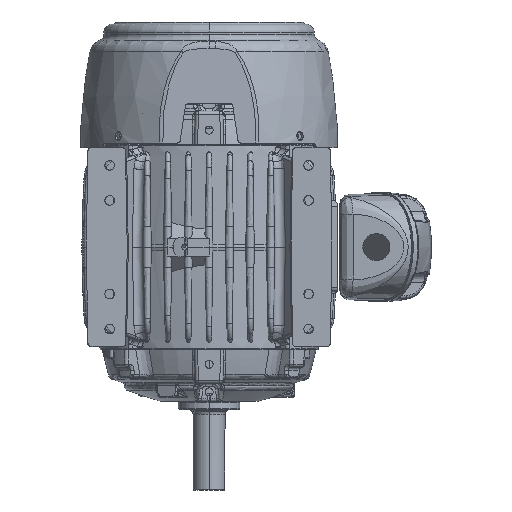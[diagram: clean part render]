
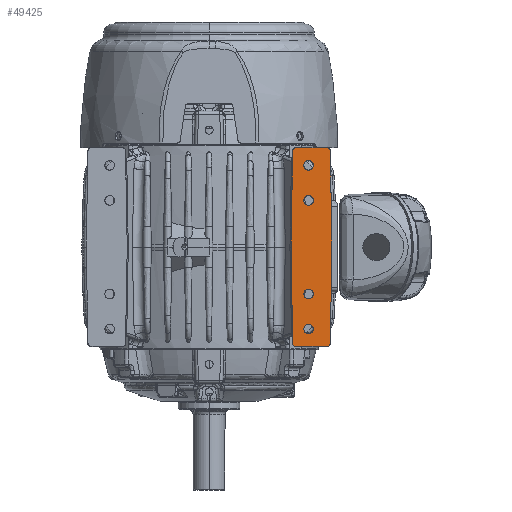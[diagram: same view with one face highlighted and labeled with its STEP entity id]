
A CAD part, front view. The second image highlights one B-rep face of the part: STEP entity #49425.
In plain terms, the highlighted planar face has unit normal (0, -1, 0).
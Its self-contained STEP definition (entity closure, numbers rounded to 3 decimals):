
#13708=CARTESIAN_POINT('',(-5.048,-5.233,4.12));
#13709=DIRECTION('',(0.,-1.,0.));
#13710=DIRECTION('',(0.,0.,1.));
#13711=AXIS2_PLACEMENT_3D('',#13708,#13709,#13710);
#13723=DIRECTION('',(0.017,0.,-1.));
#13724=VECTOR('',#13723,2.39);
#13725=CARTESIAN_POINT('',(-3.542,-5.233,
2.389));
#13726=LINE('',#13725,#13724);
#13727=DIRECTION('',(-0.017,0.,
-1.));
#13728=VECTOR('',#13727,2.39);
#13729=CARTESIAN_POINT('',(-3.5,-5.233,0.));
#13730=LINE('',#13729,#13728);
#13731=CARTESIAN_POINT('',(-5.174,-5.233,-4.123));
#13732=CARTESIAN_POINT('',(-5.187,-5.233,-3.545));
#13733=CARTESIAN_POINT('',(-5.198,-5.233,-2.967));
#13734=CARTESIAN_POINT('',(-5.208,-5.233,-2.389));
#13736=DIRECTION('',(-0.017,0.,1.));
#13737=VECTOR('',#13736,2.39);
#13738=CARTESIAN_POINT('',(-5.208,-5.233,-2.389));
#13739=LINE('',#13738,#13737);
#13740=DIRECTION('',(0.017,0.,1.));
#13741=VECTOR('',#13740,2.39);
#13742=CARTESIAN_POINT('',(-5.25,-5.233,0.));
#13743=LINE('',#13742,#13741);
#13744=CARTESIAN_POINT('',(-3.576,-5.233,
4.123));
#13745=CARTESIAN_POINT('',(-3.571,-5.233,
3.93));
#13746=CARTESIAN_POINT('',(-3.563,-5.232,
3.545));
#13747=CARTESIAN_POINT('',(-3.552,-5.233,
2.967));
#13748=CARTESIAN_POINT('',(-3.545,-5.233,
2.582));
#13749=CARTESIAN_POINT('',(-3.542,-5.233,
2.389));
#13751=CARTESIAN_POINT('',(-4.25,-5.233,3.505));
#13752=DIRECTION('',(0.,-1.,0.));
#13753=DIRECTION('',(-1.,0.,0.));
#13754=AXIS2_PLACEMENT_3D('',#13751,#13752,#13753);
#13756=CARTESIAN_POINT('',(-4.25,-5.233,3.505));
#13757=DIRECTION('',(0.,-1.,0.));
#13758=DIRECTION('',(1.,0.,0.));
#13759=AXIS2_PLACEMENT_3D('',#13756,#13757,#13758);
#13761=CARTESIAN_POINT('',(-4.25,-5.233,-3.495));
#13762=DIRECTION('',(0.,-1.,0.));
#13763=DIRECTION('',(-1.,0.,0.));
#13764=AXIS2_PLACEMENT_3D('',#13761,#13762,#13763);
#13766=CARTESIAN_POINT('',(-4.25,-5.233,-3.495));
#13767=DIRECTION('',(0.,-1.,0.));
#13768=DIRECTION('',(1.,0.,0.));
#13769=AXIS2_PLACEMENT_3D('',#13766,#13767,#13768);
#13771=CARTESIAN_POINT('',(-4.25,-5.233,2.005));
#13772=DIRECTION('',(0.,-1.,0.));
#13773=DIRECTION('',(-1.,0.,0.));
#13774=AXIS2_PLACEMENT_3D('',#13771,#13772,#13773);
#13776=CARTESIAN_POINT('',(-4.25,-5.233,2.005));
#13777=DIRECTION('',(0.,-1.,0.));
#13778=DIRECTION('',(1.,0.,0.));
#13779=AXIS2_PLACEMENT_3D('',#13776,#13777,#13778);
#13781=CARTESIAN_POINT('',(-4.25,-5.233,-1.995));
#13782=DIRECTION('',(0.,-1.,0.));
#13783=DIRECTION('',(-1.,0.,0.));
#13784=AXIS2_PLACEMENT_3D('',#13781,#13782,#13783);
#13786=CARTESIAN_POINT('',(-4.25,-5.233,-1.995));
#13787=DIRECTION('',(0.,-1.,0.));
#13788=DIRECTION('',(1.,0.,0.));
#13789=AXIS2_PLACEMENT_3D('',#13786,#13787,#13788);
#13819=CARTESIAN_POINT('',(-3.702,-5.233,4.12));
#13820=DIRECTION('',(0.,-1.,0.));
#13821=DIRECTION('',(1.,0.,0.021));
#13822=AXIS2_PLACEMENT_3D('',#13819,#13820,#13821);
#13834=DIRECTION('',(-1.,0.,0.));
#13835=VECTOR('',#13834,1.346);
#13836=CARTESIAN_POINT('',(-3.702,-5.233,
4.246));
#13837=LINE('',#13836,#13835);
#14084=CARTESIAN_POINT('',(-3.702,-5.233,-4.12));
#14085=DIRECTION('',(0.,-1.,0.));
#14086=DIRECTION('',(0.,0.,-1.));
#14087=AXIS2_PLACEMENT_3D('',#14084,#14085,#14086);
#14106=CARTESIAN_POINT('',(-3.576,-5.233,
-4.123));
#14107=CARTESIAN_POINT('',(-3.571,-5.233,
-3.933));
#14108=CARTESIAN_POINT('',(-3.563,-5.232,
-3.552));
#14109=CARTESIAN_POINT('',(-3.552,-5.233,
-2.975));
#14110=CARTESIAN_POINT('',(-3.545,-5.233,
-2.585));
#14111=CARTESIAN_POINT('',(-3.542,-5.233,
-2.389));
#18294=DIRECTION('',(1.,0.,0.));
#18295=VECTOR('',#18294,1.346);
#18296=CARTESIAN_POINT('',(-5.048,-5.233,
-4.246));
#18297=LINE('',#18296,#18295);
#18337=CARTESIAN_POINT('',(-5.048,-5.233,-4.12));
#18338=DIRECTION('',(0.,-1.,0.));
#18339=DIRECTION('',(-1.,0.,-0.022));
#18340=AXIS2_PLACEMENT_3D('',#18337,#18338,#18339);
#18379=CARTESIAN_POINT('',(-5.174,-5.233,4.123));
#18380=CARTESIAN_POINT('',(-5.187,-5.233,3.545));
#18381=CARTESIAN_POINT('',(-5.198,-5.233,2.967));
#18382=CARTESIAN_POINT('',(-5.208,-5.233,2.389));
#19338=CARTESIAN_POINT('',(-3.542,-5.233,
2.389));
#19339=CARTESIAN_POINT('',(-3.5,-5.233,0.));
#19340=VERTEX_POINT('',#19338);
#19341=VERTEX_POINT('',#19339);
#19342=CARTESIAN_POINT('',(-3.542,-5.233,
-2.389));
#19343=VERTEX_POINT('',#19342);
#19344=VERTEX_POINT('',#14106);
#19345=CARTESIAN_POINT('',(-3.702,-5.233,-4.246));
#19346=VERTEX_POINT('',#19345);
#19347=CARTESIAN_POINT('',(-5.048,-5.233,
-4.246));
#19348=VERTEX_POINT('',#19347);
#19349=CARTESIAN_POINT('',(-5.174,-5.233,-4.123));
#19350=VERTEX_POINT('',#19349);
#19351=VERTEX_POINT('',#13734);
#19352=CARTESIAN_POINT('',(-5.25,-5.233,0.));
#19353=VERTEX_POINT('',#19352);
#19354=CARTESIAN_POINT('',(-5.208,-5.233,2.389));
#19355=VERTEX_POINT('',#19354);
#19356=VERTEX_POINT('',#18379);
#19357=CARTESIAN_POINT('',(-5.048,-5.233,4.246));
#19358=VERTEX_POINT('',#19357);
#19359=CARTESIAN_POINT('',(-3.702,-5.233,
4.246));
#19360=VERTEX_POINT('',#19359);
#19361=CARTESIAN_POINT('',(-3.576,-5.233,4.123));
#19362=VERTEX_POINT('',#19361);
#19363=CARTESIAN_POINT('',(-4.455,-5.233,3.505));
#19364=CARTESIAN_POINT('',(-4.045,-5.233,3.505));
#19365=VERTEX_POINT('',#19363);
#19366=VERTEX_POINT('',#19364);
#19367=CARTESIAN_POINT('',(-4.455,-5.233,-3.495));
#19368=CARTESIAN_POINT('',(-4.045,-5.233,-3.495));
#19369=VERTEX_POINT('',#19367);
#19370=VERTEX_POINT('',#19368);
#19371=CARTESIAN_POINT('',(-4.455,-5.233,2.005));
#19372=CARTESIAN_POINT('',(-4.045,-5.233,2.005));
#19373=VERTEX_POINT('',#19371);
#19374=VERTEX_POINT('',#19372);
#19375=CARTESIAN_POINT('',(-4.455,-5.233,-1.995));
#19376=CARTESIAN_POINT('',(-4.045,-5.233,-1.995));
#19377=VERTEX_POINT('',#19375);
#19378=VERTEX_POINT('',#19376);
#49367=CARTESIAN_POINT('',(9.5,-5.233,5.362));
#49368=DIRECTION('',(0.,1.,0.));
#49369=DIRECTION('',(-1.,0.,0.));
#49370=AXIS2_PLACEMENT_3D('',#49367,#49368,#49369);
#49371=PLANE('',#49370);
#49373=ORIENTED_EDGE('',*,*,#49372,.T.);
#49375=ORIENTED_EDGE('',*,*,#49374,.T.);
#49377=ORIENTED_EDGE('',*,*,#49376,.F.);
#49379=ORIENTED_EDGE('',*,*,#49378,.F.);
#49381=ORIENTED_EDGE('',*,*,#49380,.F.);
#49383=ORIENTED_EDGE('',*,*,#49382,.F.);
#49385=ORIENTED_EDGE('',*,*,#49384,.T.);
#49387=ORIENTED_EDGE('',*,*,#49386,.T.);
#49389=ORIENTED_EDGE('',*,*,#49388,.T.);
#49391=ORIENTED_EDGE('',*,*,#49390,.F.);
#49392=ORIENTED_EDGE('',*,*,#49357,.F.);
#49394=ORIENTED_EDGE('',*,*,#49393,.F.);
#49396=ORIENTED_EDGE('',*,*,#49395,.F.);
#49398=ORIENTED_EDGE('',*,*,#49397,.T.);
#49399=EDGE_LOOP('',(#49373,#49375,#49377,#49379,#49381,#49383,#49385,#49387,
#49389,#49391,#49392,#49394,#49396,#49398));
#49400=FACE_OUTER_BOUND('',#49399,.F.);
#49402=ORIENTED_EDGE('',*,*,#49401,.T.);
#49404=ORIENTED_EDGE('',*,*,#49403,.T.);
#49405=EDGE_LOOP('',(#49402,#49404));
#49406=FACE_BOUND('',#49405,.F.);
#49408=ORIENTED_EDGE('',*,*,#49407,.T.);
#49410=ORIENTED_EDGE('',*,*,#49409,.T.);
#49411=EDGE_LOOP('',(#49408,#49410));
#49412=FACE_BOUND('',#49411,.F.);
#49414=ORIENTED_EDGE('',*,*,#49413,.T.);
#49416=ORIENTED_EDGE('',*,*,#49415,.T.);
#49417=EDGE_LOOP('',(#49414,#49416));
#49418=FACE_BOUND('',#49417,.F.);
#49420=ORIENTED_EDGE('',*,*,#49419,.T.);
#49422=ORIENTED_EDGE('',*,*,#49421,.T.);
#49423=EDGE_LOOP('',(#49420,#49422));
#49424=FACE_BOUND('',#49423,.F.);
#49425=ADVANCED_FACE('',(#49400,#49406,#49412,#49418,#49424),#49371,.F.);
#13712=CIRCLE('',#13711,0.126);
#13735=B_SPLINE_CURVE_WITH_KNOTS('',3,(#13731,#13732,#13733,#13734),
.UNSPECIFIED.,.F.,.F.,(4,4),(0.,1.),.UNSPECIFIED.);
#13750=B_SPLINE_CURVE_WITH_KNOTS('',3,(#13744,#13745,#13746,#13747,#13748,
#13749),.UNSPECIFIED.,.F.,.F.,(4,1,1,4),(0.,0.333,
0.667,1.),.UNSPECIFIED.);
#13755=CIRCLE('',#13754,0.205);
#13760=CIRCLE('',#13759,0.205);
#13765=CIRCLE('',#13764,0.205);
#13770=CIRCLE('',#13769,0.205);
#13775=CIRCLE('',#13774,0.205);
#13780=CIRCLE('',#13779,0.205);
#13785=CIRCLE('',#13784,0.205);
#13790=CIRCLE('',#13789,0.205);
#13823=CIRCLE('',#13822,0.126);
#14088=CIRCLE('',#14087,0.126);
#14112=B_SPLINE_CURVE_WITH_KNOTS('',3,(#14106,#14107,#14108,#14109,#14110,
#14111),.UNSPECIFIED.,.F.,.F.,(4,1,1,4),(0.,0.333,
0.667,1.),.UNSPECIFIED.);
#18341=CIRCLE('',#18340,0.126);
#18383=B_SPLINE_CURVE_WITH_KNOTS('',3,(#18379,#18380,#18381,#18382),
.UNSPECIFIED.,.F.,.F.,(4,4),(0.,1.),.UNSPECIFIED.);
#49357=EDGE_CURVE('',#19358,#19356,#13712,.T.);
#49372=EDGE_CURVE('',#19340,#19341,#13726,.T.);
#49374=EDGE_CURVE('',#19341,#19343,#13730,.T.);
#49376=EDGE_CURVE('',#19344,#19343,#14112,.T.);
#49378=EDGE_CURVE('',#19346,#19344,#14088,.T.);
#49380=EDGE_CURVE('',#19348,#19346,#18297,.T.);
#49382=EDGE_CURVE('',#19350,#19348,#18341,.T.);
#49384=EDGE_CURVE('',#19350,#19351,#13735,.T.);
#49386=EDGE_CURVE('',#19351,#19353,#13739,.T.);
#49388=EDGE_CURVE('',#19353,#19355,#13743,.T.);
#49390=EDGE_CURVE('',#19356,#19355,#18383,.T.);
#49393=EDGE_CURVE('',#19360,#19358,#13837,.T.);
#49395=EDGE_CURVE('',#19362,#19360,#13823,.T.);
#49397=EDGE_CURVE('',#19362,#19340,#13750,.T.);
#49401=EDGE_CURVE('',#19365,#19366,#13755,.T.);
#49403=EDGE_CURVE('',#19366,#19365,#13760,.T.);
#49407=EDGE_CURVE('',#19369,#19370,#13765,.T.);
#49409=EDGE_CURVE('',#19370,#19369,#13770,.T.);
#49413=EDGE_CURVE('',#19373,#19374,#13775,.T.);
#49415=EDGE_CURVE('',#19374,#19373,#13780,.T.);
#49419=EDGE_CURVE('',#19377,#19378,#13785,.T.);
#49421=EDGE_CURVE('',#19378,#19377,#13790,.T.);
